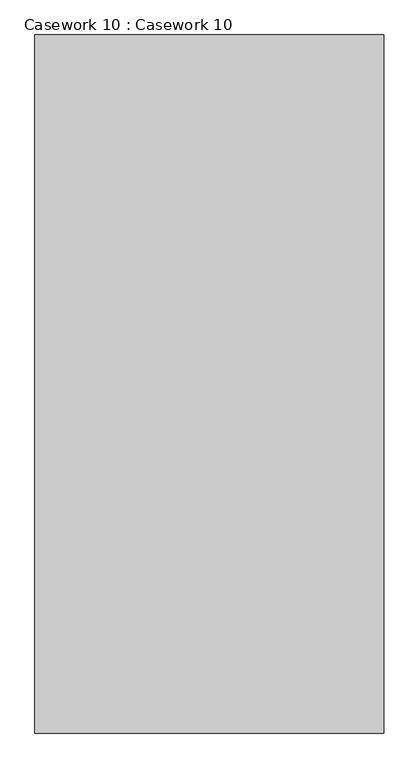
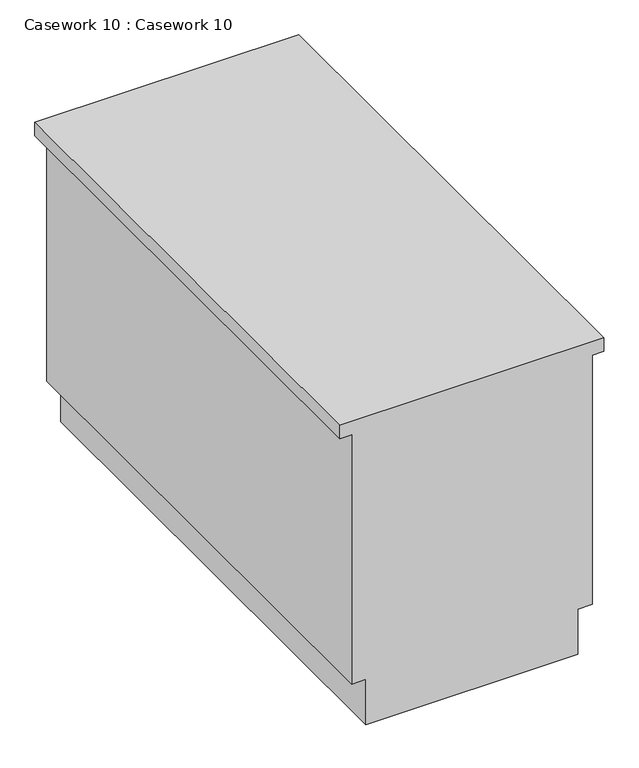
"""IFC4 building model written with IfcOpenShell, lengths in millimetres: furniture geometry, Casework 10 : Casework 10."""

from ifc_helpers import new_model, si_unit, frame, origin, place, context, project, spatial, polyline, outline, extrude, source, transform, mapped, element, save


def casework_10_casework_10_265339eb(model_context):
    return source(origin(), model_context, "Body", "SweptSolid", [
        extrude(outline(polyline([(3379.7875, 6019.8), (3379.7875, 6057.9), (4089.4, 6057.9), (4089.4, 6089.65), (4127.5, 6089.65), (4127.5, 5378.45), (4089.4, 5378.45), (4089.4, 5410.2), (3379.7875, 5410.2), (3379.7875, 5448.3), (3251.2, 5448.3), (3251.2, 6019.8), (3379.7875, 6019.8)])), frame((0.0, 5219.5947939, 0.0), z_axis=(0.0, 1.0, 0.0), x_axis=(0.0, 0.0, 1.0)), (0.0, 0.0, 1.0), 1422.4),
    ])


if __name__ == "__main__":
    model = new_model("IFC4")
    model_context = context("Model", 3, world=origin())
    ifc_project = project(units=[si_unit("LENGTHUNIT", "METRE", prefix="MILLI")], contexts=[model_context])
    site = spatial("IfcSite", under=ifc_project)
    building = spatial("IfcBuilding", under=site)
    placement = place(None, origin())
    casework_10_casework_10_shape = casework_10_casework_10_265339eb(model_context)
    element("IfcFurniture", 1, ObjectType="Casework 10 : Casework 10", at=placement, inside=building, context=model_context, shape_type="MappedRepresentation", body=[
        mapped(casework_10_casework_10_shape, transform((0.0, 0.0, 0.0), x_axis=(1.0, 0.0, 0.0), y_axis=(0.0, 1.0, 0.0), z_axis=(0.0, 0.0, 1.0))),
    ])
    save(model, "model.ifc")
